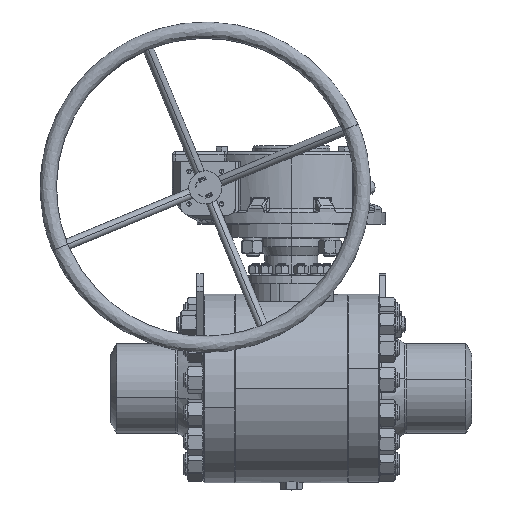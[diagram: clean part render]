
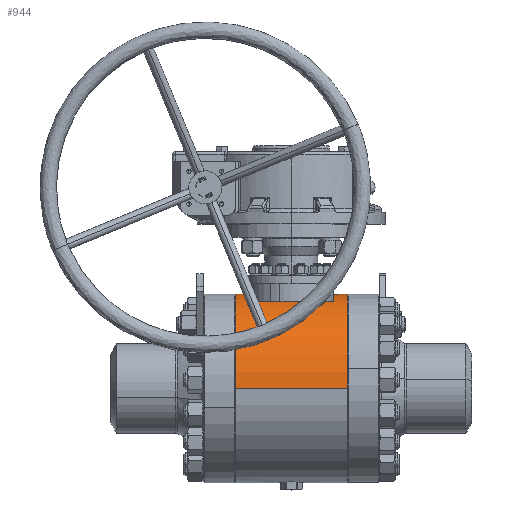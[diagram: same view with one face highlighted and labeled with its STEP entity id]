
A CAD part, top view. The second image highlights one B-rep face of the part: STEP entity #944.
In plain terms, the highlighted cylindrical face has radius 142.5 mm (diameter 285 mm), a partial arc.
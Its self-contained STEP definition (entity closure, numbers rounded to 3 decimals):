
#944=ADVANCED_FACE('',(#5324,#5326),#5328,.T.);
#5324=FACE_BOUND('',#5325,.T.);
#5325=EDGE_LOOP('',(#49426,#49427,#49428,#49429));
#5326=FACE_OUTER_BOUND('',#5327,.T.);
#5327=EDGE_LOOP('',(#49430,#49431,#49432,#49433));
#5328=CYLINDRICAL_SURFACE('',#5329,142.5);
#5329=AXIS2_PLACEMENT_3D('',#5330,#5331,#5332);
#5330=CARTESIAN_POINT('',(0.,0.,0.));
#5331=DIRECTION('',(1.,-0.,-0.));
#5332=DIRECTION('',(0.,0.,-1.));
#49426=ORIENTED_EDGE('',*,*,#67912,.T.);
#49427=ORIENTED_EDGE('',*,*,#67913,.T.);
#49428=ORIENTED_EDGE('',*,*,#67914,.T.);
#49429=ORIENTED_EDGE('',*,*,#67915,.T.);
#49430=ORIENTED_EDGE('',*,*,#67916,.T.);
#49431=ORIENTED_EDGE('',*,*,#67917,.T.);
#49432=ORIENTED_EDGE('',*,*,#67918,.F.);
#49433=ORIENTED_EDGE('',*,*,#67919,.F.);
#67912=EDGE_CURVE('',#77403,#77404,#77405,.T.);
#67913=EDGE_CURVE('',#77404,#77406,#77407,.T.);
#67914=EDGE_CURVE('',#77406,#77408,#77409,.T.);
#67915=EDGE_CURVE('',#77408,#77403,#77410,.T.);
#67916=EDGE_CURVE('',#77411,#77412,#77413,.T.);
#67917=EDGE_CURVE('',#77412,#77414,#77415,.T.);
#67918=EDGE_CURVE('',#77416,#77414,#77417,.T.);
#67919=EDGE_CURVE('',#77411,#77416,#77418,.T.);
#77403=VERTEX_POINT('',#93685);
#77404=VERTEX_POINT('',#93686);
#77405=CIRCLE('',#93687,142.5);
#77406=VERTEX_POINT('',#93691);
#77407=LINE('',#93692,#93693);
#77408=VERTEX_POINT('',#93695);
#77409=CIRCLE('',#93696,142.5);
#77410=LINE('',#93700,#93701);
#77411=VERTEX_POINT('',#93703);
#77412=VERTEX_POINT('',#93704);
#77413=CIRCLE('',#93705,142.5);
#77414=VERTEX_POINT('',#93709);
#77415=LINE('',#93710,#93711);
#77416=VERTEX_POINT('',#93713);
#77417=CIRCLE('',#93714,142.5);
#77418=LINE('',#93718,#93719);
#93685=CARTESIAN_POINT('',(64.,131.,-56.083));
#93686=CARTESIAN_POINT('',(64.,131.,56.083));
#93687=AXIS2_PLACEMENT_3D('',#93688,#93689,#93690);
#93688=CARTESIAN_POINT('',(64.,0.,0.));
#93689=DIRECTION('',(1.,0.,0.));
#93690=DIRECTION('',(0.,0.919,-0.394));
#93691=CARTESIAN_POINT('',(-64.,131.,56.083));
#93692=CARTESIAN_POINT('',(64.,131.,56.083));
#93693=VECTOR('',#93694,1.);
#93694=DIRECTION('',(-1.,0.,0.));
#93695=CARTESIAN_POINT('',(-64.,131.,-56.083));
#93696=AXIS2_PLACEMENT_3D('',#93697,#93698,#93699);
#93697=CARTESIAN_POINT('',(-64.,0.,0.));
#93698=DIRECTION('',(-1.,0.,0.));
#93699=DIRECTION('',(0.,0.919,0.394));
#93700=CARTESIAN_POINT('',(-64.,131.,-56.083));
#93701=VECTOR('',#93702,1.);
#93702=DIRECTION('',(1.,0.,0.));
#93703=CARTESIAN_POINT('',(-85.,0.,-142.5));
#93704=CARTESIAN_POINT('',(-85.,0.,142.5));
#93705=AXIS2_PLACEMENT_3D('',#93706,#93707,#93708);
#93706=CARTESIAN_POINT('',(-85.,0.,0.));
#93707=DIRECTION('',(1.,0.,0.));
#93708=DIRECTION('',(0.,0.,-1.));
#93709=CARTESIAN_POINT('',(85.,0.,142.5));
#93710=CARTESIAN_POINT('',(-85.,0.,142.5));
#93711=VECTOR('',#93712,1.);
#93712=DIRECTION('',(1.,0.,0.));
#93713=CARTESIAN_POINT('',(85.,0.,-142.5));
#93714=AXIS2_PLACEMENT_3D('',#93715,#93716,#93717);
#93715=CARTESIAN_POINT('',(85.,0.,0.));
#93716=DIRECTION('',(1.,-0.,0.));
#93717=DIRECTION('',(0.,0.,-1.));
#93718=CARTESIAN_POINT('',(-85.,0.,-142.5));
#93719=VECTOR('',#93720,1.);
#93720=DIRECTION('',(1.,0.,0.));
